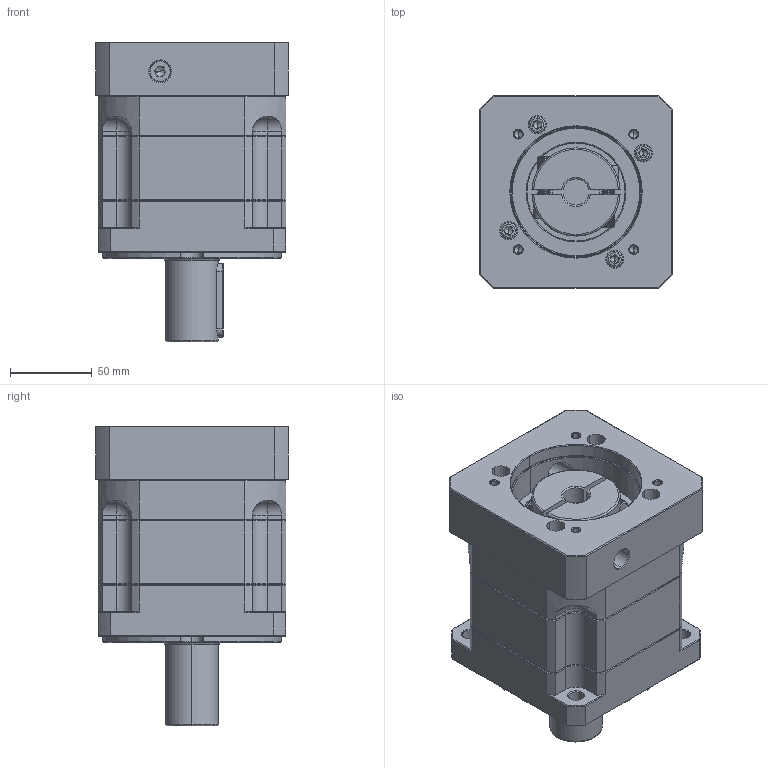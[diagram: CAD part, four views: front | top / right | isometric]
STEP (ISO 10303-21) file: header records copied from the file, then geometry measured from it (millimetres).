
FILE_DESCRIPTION (( 'STEP AP214' ), '1' );
FILE_NAME ('ZB115A-D32-L1-P2-16-80-100-M6.step', '2023-08-26T06:27:04', ( '' ), ( '' ), 'SwSTEP 2.0', 'SolidWorks 2016', '' );
FILE_SCHEMA (( 'AUTOMOTIVE_DESIGN' ));
Length unit declared in the file: millimetre
Products named in the file (1): ZB115A-D32-L1-P2-16-80-100-M6
Bounding box: 118 x 118 x 183.5 mm (x, y, z)
Volume: 1507533.3 mm3; surface area: 161962.7 mm2
Topology: 6 solids, 6 shells, 2201 faces, 5841 edges, 3740 vertices
Faces by surface type: plane 1136, bspline 399, cone 337, cylinder 297, torus 28, sphere 4
Entity records: 111531 total; most frequent: CARTESIAN_POINT 35184, ORIENTED_EDGE 11614, DIRECTION 9449, EDGE_CURVE 5807, LINE 3791, VECTOR 3791, VERTEX_POINT 3740, AXIS2_PLACEMENT_3D 2829
